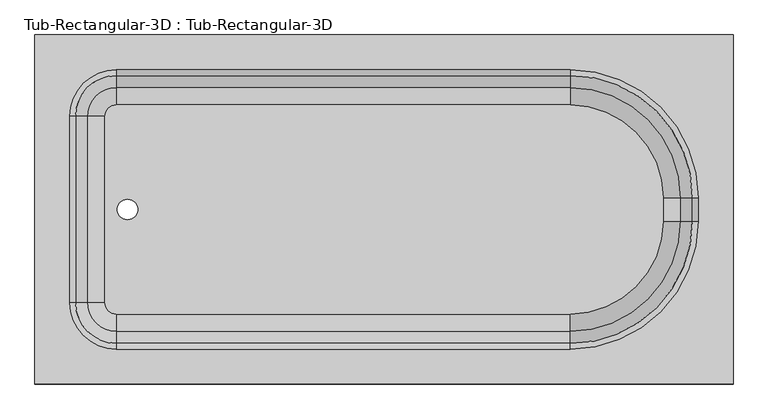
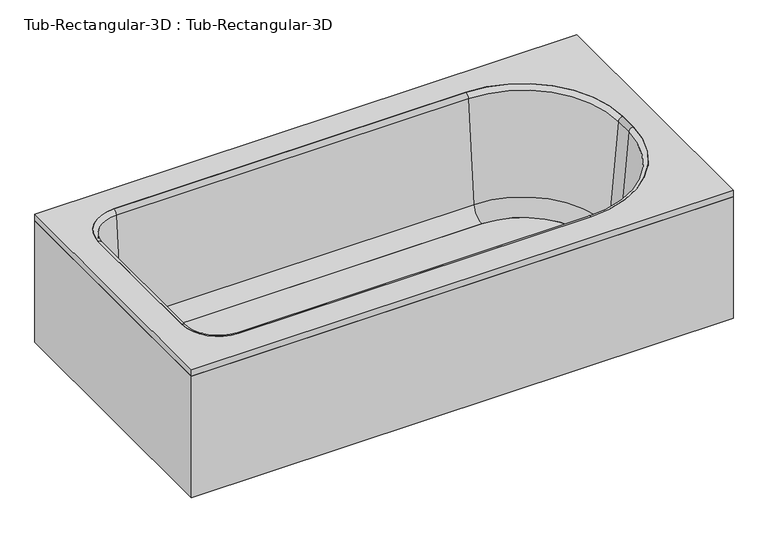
"""IFC4 building model written with IfcOpenShell, lengths in millimetres: flow terminal geometry, Tub-Rectangular-3D : Tub-Rectangular-3D."""

from ifc_helpers import new_model, si_unit, point, frame, frame_2d, origin, origin_with_axes, place, context, project, spatial, polyline, circle_curve, ellipse_curve, trimmed, segment, composite_curve, outline, extrude, source, transform, mapped, element, save
from ifc_brep_helpers import plane_surface, cylinder_surface, revolved_surface, advanced_brep


def tub_rectangular_3d_tub_rectangular_3d_5e45a89b(model_context):
    return source(origin(), model_context, "Body", "SolidModel", [
        extrude(outline(polyline([(413.3970313, -938.2125), (-1110.6029687, -938.2125), (-1110.6029687, -176.2125), (413.3970313, -176.2125), (413.3970313, -938.2125)]), holes=[composite_curve([segment(polyline([(-932.8029687, -862.0125), (57.7970313, -862.0125)]), True, "CONTINUOUS"), segment(trimmed(circle_curve(frame_2d((57.7970313, -582.6125)), 279.4), [point((57.7970313, -862.0125))], [point((337.1970313, -582.6125))], True, "CARTESIAN"), True, "CONTINUOUS"), segment(polyline([(337.1970313, -582.6125), (337.1970313, -531.8125)]), True, "CONTINUOUS"), segment(trimmed(circle_curve(frame_2d((57.7970313, -531.8125)), 279.4), [point((337.1970313, -531.8125))], [point((57.7970313, -252.4125))], True, "CARTESIAN"), True, "CONTINUOUS"), segment(polyline([(57.7970313, -252.4125), (-932.8029687, -252.4125)]), True, "CONTINUOUS"), segment(trimmed(circle_curve(frame_2d((-932.8029687, -354.0125)), 101.6), [point((-932.8029687, -252.4125))], [point((-1034.4029687, -354.0125))], True, "CARTESIAN"), True, "CONTINUOUS"), segment(polyline([(-1034.4029687, -354.0125), (-1034.4029687, -760.4125)]), True, "CONTINUOUS"), segment(trimmed(circle_curve(frame_2d((-932.8029687, -760.4125)), 101.6), [point((-1034.4029687, -760.4125))], [point((-932.8029687, -862.0125))], True, "CARTESIAN"), True, "CONTINUOUS")], self_intersect=False)]), frame((0.0, 0.0, 361.95), z_axis=(0.0, 0.0, 1.0), x_axis=(1.0, 0.0, 0.0)), (0.0, 0.0, 1.0), 19.05),
        extrude(outline(polyline([(413.3970313, -938.2125), (-1110.6029687, -938.2125), (-1110.6029687, -176.2125), (413.3970313, -176.2125), (413.3970313, -938.2125)]), holes=[polyline([(394.3470313, -919.1625), (394.3470313, -195.2625), (-1091.5529687, -195.2625), (-1091.5529687, -919.1625), (394.3470313, -919.1625)])]), origin_with_axes(), (0.0, 0.0, 1.0), 361.95),
        extrude(outline(composite_curve([segment(polyline([(57.7970313, -785.4089741), (-932.8029687, -785.4089741)]), True, "CONTINUOUS"), segment(trimmed(circle_curve(frame_2d((-932.8029687, -760.4125)), 24.9964741), [point((-932.8029687, -785.4089741))], [point((-957.7994428, -760.4125))], False, "CARTESIAN"), True, "CONTINUOUS"), segment(polyline([(-957.7994428, -760.4125), (-957.7994428, -354.0125)]), True, "CONTINUOUS"), segment(trimmed(circle_curve(frame_2d((-932.8029687, -354.0125)), 24.9964741), [point((-957.7994428, -354.0125))], [point((-932.8029687, -329.0160259))], False, "CARTESIAN"), True, "CONTINUOUS"), segment(polyline([(-932.8029687, -329.0160259), (57.7970313, -329.0160259)]), True, "CONTINUOUS"), segment(trimmed(circle_curve(frame_2d((57.7970313, -531.8125)), 202.7964741), [point((57.7970313, -329.0160259))], [point((260.5935054, -531.8125))], False, "CARTESIAN"), True, "CONTINUOUS"), segment(polyline([(260.5935054, -531.8125), (260.5935054, -582.6125)]), True, "CONTINUOUS"), segment(trimmed(circle_curve(frame_2d((57.7970313, -582.6125)), 202.7964741), [point((260.5935054, -582.6125))], [point((57.7970313, -785.4089741))], False, "CARTESIAN"), True, "CONTINUOUS")], self_intersect=False), holes=[composite_curve([segment(trimmed(circle_curve(frame_2d((-908.510206, -557.2125)), 22.225), [point((-908.510206, -579.4375))], [point((-908.510206, -534.9875))], True, "CARTESIAN"), True, "CONTINUOUS"), segment(trimmed(circle_curve(frame_2d((-908.510206, -557.2125)), 22.225), [point((-908.510206, -534.9875))], [point((-908.510206, -579.4375))], True, "CARTESIAN"), True, "CONTINUOUS")], self_intersect=False)]), frame((0.0, 0.0, 16.863573), z_axis=(0.0, 0.0, 1.0), x_axis=(1.0, 0.0, 0.0)), (0.0, 0.0, 1.0), 19.05),
        advanced_brep(
        [(-995.7544608, -760.4125, 70.6929392), (-1021.9249722, -760.4125, 369.8232535), (-932.8029687, -849.5345035, 369.8232535), (-932.8029687, -823.3639921, 70.6929392), (-957.7994428, -760.4125, 35.913573), (-932.8029687, -785.4089741, 35.913573), (-957.7994428, -760.4125, 16.863573), (-932.8029687, -785.4089741, 16.863573), (-1034.4029687, -760.4125, 16.863573), (-932.8029687, -862.0125, 16.863573), (-1034.4029687, -760.4125, 381.0), (-932.8029687, -862.0125, 381.0), (-995.7544608, -354.0125, 70.6929392), (-1021.9249722, -354.0125, 369.8232535), (-957.7994428, -354.0125, 35.913573), (-957.7994428, -354.0125, 16.863573), (-1034.4029687, -354.0125, 16.863573), (-1034.4029687, -354.0125, 381.0), (-932.8029687, -291.0610079, 70.6929392), (-932.8029687, -264.8904965, 369.8232535), (-932.8029687, -329.0160259, 35.913573), (-932.8029687, -329.0160259, 16.863573), (-932.8029687, -252.4125, 16.863573), (-932.8029687, -252.4125, 381.0), (57.7970313, -291.0610079, 70.6929392), (57.7970313, -264.8904965, 369.8232535), (57.7970313, -329.0160259, 35.913573), (57.7970313, -329.0160259, 16.863573), (57.7970313, -252.4125, 16.863573), (57.7970313, -252.4125, 381.0), (298.5485234, -531.8125, 70.6929392), (324.7190348, -531.8125, 369.8232535), (260.5935054, -531.8125, 35.913573), (260.5935054, -531.8125, 16.863573), (337.1970313, -531.8125, 16.863573), (337.1970313, -531.8125, 381.0), (298.5485234, -582.6125, 70.6929392), (324.7190348, -582.6125, 369.8232535), (260.5935054, -582.6125, 35.913573), (260.5935054, -582.6125, 16.863573), (337.1970313, -582.6125, 16.863573), (337.1970313, -582.6125, 381.0), (57.7970313, -823.3639921, 70.6929392), (57.7970313, -849.5345035, 369.8232535), (57.7970313, -785.4089741, 35.913573), (57.7970313, -785.4089741, 16.863573), (57.7970313, -862.0125, 16.863573), (57.7970313, -862.0125, 381.0)],
        [
            (0, 1),
            (1, 2, circle_curve(frame((-932.8029687, -760.4125, 369.8232535), z_axis=(0.0, 0.0, 1.0), x_axis=(0.0, -1.0, 0.0)), 89.1220035)),
            (2, 3),
            (3, 0, circle_curve(frame((-932.8029687, -760.4125, 70.6929392), z_axis=(0.0, 0.0, -1.0), x_axis=(0.0, -1.0, 0.0)), 62.9514921)),
            (4, 0, circle_curve(frame((-957.7994428, -760.4125, 74.013573), z_axis=(0.0, 1.0, 0.0), x_axis=(1.0, 0.0, 0.0)), 38.1)),
            (3, 5, circle_curve(frame((-932.8029687, -785.4089741, 74.013573), z_axis=(1.0, 0.0, 0.0), x_axis=(0.0, 1.0, 0.0)), 38.1)),
            (5, 4, circle_curve(frame((-932.8029687, -760.4125, 35.913573), z_axis=(0.0, 0.0, -1.0), x_axis=(0.0, -1.0, 0.0)), 24.9964741)),
            (6, 4),
            (5, 7),
            (7, 6, circle_curve(frame((-932.8029687, -760.4125, 16.863573), z_axis=(0.0, 0.0, -1.0), x_axis=(0.0, -1.0, 0.0)), 24.9964741)),
            (8, 6),
            (7, 9),
            (9, 8, circle_curve(frame((-932.8029687, -760.4125, 16.863573), z_axis=(0.0, 0.0, -1.0), x_axis=(0.0, -1.0, 0.0)), 101.6)),
            (10, 8),
            (9, 11),
            (11, 10, circle_curve(frame((-932.8029687, -760.4125, 381.0), z_axis=(0.0, 0.0, -1.0), x_axis=(0.0, -1.0, 0.0)), 101.6)),
            (1, 10, circle_curve(frame((-1034.4029687, -760.4125, 368.4462547), z_axis=(0.0, -1.0, 0.0), x_axis=(1.0, 0.0, 0.0)), 12.5537453)),
            (11, 2, circle_curve(frame((-932.8029687, -862.0125, 368.4462547), z_axis=(-1.0, 0.0, 0.0), x_axis=(0.0, 1.0, 0.0)), 12.5537453)),
            (0, 12),
            (12, 13),
            (13, 1),
            (4, 14),
            (14, 12, circle_curve(frame((-957.7994428, -354.0125, 74.013573), z_axis=(0.0, 1.0, 0.0), x_axis=(1.0, 0.0, 0.0)), 38.1)),
            (6, 15),
            (15, 14),
            (8, 16),
            (16, 15),
            (10, 17),
            (17, 16),
            (13, 17, circle_curve(frame((-1034.4029687, -354.0125, 368.4462547), z_axis=(0.0, -1.0, 0.0), x_axis=(1.0, 0.0, 0.0)), 12.5537453)),
            (18, 19),
            (19, 13, circle_curve(frame((-932.8029687, -354.0125, 369.8232535), z_axis=(0.0, 0.0, 1.0), x_axis=(-1.0, 0.0, 0.0)), 89.1220035)),
            (12, 18, circle_curve(frame((-932.8029687, -354.0125, 70.6929392), z_axis=(0.0, 0.0, -1.0), x_axis=(-1.0, 0.0, 0.0)), 62.9514921)),
            (20, 18, circle_curve(frame((-932.8029687, -329.0160259, 74.013573), z_axis=(1.0, 0.0, 0.0), x_axis=(0.0, -1.0, 0.0)), 38.1)),
            (14, 20, circle_curve(frame((-932.8029687, -354.0125, 35.913573), z_axis=(0.0, 0.0, -1.0), x_axis=(-1.0, 0.0, 0.0)), 24.9964741)),
            (21, 20),
            (15, 21, circle_curve(frame((-932.8029687, -354.0125, 16.863573), z_axis=(0.0, 0.0, -1.0), x_axis=(-1.0, 0.0, 0.0)), 24.9964741)),
            (22, 21),
            (16, 22, circle_curve(frame((-932.8029687, -354.0125, 16.863573), z_axis=(0.0, 0.0, -1.0), x_axis=(-1.0, 0.0, 0.0)), 101.6)),
            (23, 22),
            (17, 23, circle_curve(frame((-932.8029687, -354.0125, 381.0), z_axis=(0.0, 0.0, -1.0), x_axis=(-1.0, 0.0, 0.0)), 101.6)),
            (19, 23, circle_curve(frame((-932.8029687, -252.4125, 368.4462547), z_axis=(-1.0, 0.0, 0.0), x_axis=(0.0, -1.0, 0.0)), 12.5537453)),
            (18, 24),
            (24, 25),
            (25, 19),
            (20, 26),
            (26, 24, circle_curve(frame((57.7970313, -329.0160259, 74.013573), z_axis=(1.0, 0.0, 0.0), x_axis=(0.0, -1.0, 0.0)), 38.1)),
            (21, 27),
            (27, 26),
            (22, 28),
            (28, 27),
            (23, 29),
            (29, 28),
            (25, 29, circle_curve(frame((57.7970313, -252.4125, 368.4462547), z_axis=(-1.0, 0.0, 0.0), x_axis=(0.0, -1.0, 0.0)), 12.5537453)),
            (30, 31),
            (31, 25, circle_curve(frame((57.7970313, -531.8125, 369.8232535), z_axis=(0.0, 0.0, 1.0), x_axis=(0.0, 1.0, 0.0)), 266.9220035)),
            (24, 30, circle_curve(frame((57.7970313, -531.8125, 70.6929392), z_axis=(0.0, 0.0, -1.0), x_axis=(0.0, 1.0, 0.0)), 240.7514921)),
            (32, 30, circle_curve(frame((260.5935054, -531.8125, 74.013573), z_axis=(0.0, -1.0, 0.0), x_axis=(-1.0, 0.0, 0.0)), 38.1)),
            (26, 32, circle_curve(frame((57.7970313, -531.8125, 35.913573), z_axis=(0.0, 0.0, -1.0), x_axis=(0.0, 1.0, 0.0)), 202.7964741)),
            (33, 32),
            (27, 33, circle_curve(frame((57.7970313, -531.8125, 16.863573), z_axis=(0.0, 0.0, -1.0), x_axis=(0.0, 1.0, 0.0)), 202.7964741)),
            (34, 33),
            (28, 34, circle_curve(frame((57.7970313, -531.8125, 16.863573), z_axis=(0.0, 0.0, -1.0), x_axis=(0.0, 1.0, 0.0)), 279.4)),
            (35, 34),
            (29, 35, circle_curve(frame((57.7970313, -531.8125, 381.0), z_axis=(0.0, 0.0, -1.0), x_axis=(0.0, 1.0, 0.0)), 279.4)),
            (31, 35, circle_curve(frame((337.1970313, -531.8125, 368.4462547), z_axis=(0.0, 1.0, 0.0), x_axis=(-1.0, 0.0, 0.0)), 12.5537453)),
            (30, 36),
            (36, 37),
            (37, 31),
            (32, 38),
            (38, 36, circle_curve(frame((260.5935054, -582.6125, 74.013573), z_axis=(0.0, -1.0, 0.0), x_axis=(-1.0, 0.0, 0.0)), 38.1)),
            (33, 39),
            (39, 38),
            (34, 40),
            (40, 39),
            (35, 41),
            (41, 40),
            (37, 41, circle_curve(frame((337.1970313, -582.6125, 368.4462547), z_axis=(0.0, 1.0, 0.0), x_axis=(-1.0, 0.0, 0.0)), 12.5537453)),
            (42, 43),
            (43, 37, circle_curve(frame((57.7970313, -582.6125, 369.8232535), z_axis=(0.0, 0.0, 1.0), x_axis=(1.0, 0.0, 0.0)), 266.9220035)),
            (36, 42, circle_curve(frame((57.7970313, -582.6125, 70.6929392), z_axis=(0.0, 0.0, -1.0), x_axis=(1.0, 0.0, 0.0)), 240.7514921)),
            (44, 42, circle_curve(frame((57.7970313, -785.4089741, 74.013573), z_axis=(-1.0, 0.0, 0.0), x_axis=(0.0, 1.0, 0.0)), 38.1)),
            (38, 44, circle_curve(frame((57.7970313, -582.6125, 35.913573), z_axis=(0.0, 0.0, -1.0), x_axis=(1.0, 0.0, 0.0)), 202.7964741)),
            (45, 44),
            (39, 45, circle_curve(frame((57.7970313, -582.6125, 16.863573), z_axis=(0.0, 0.0, -1.0), x_axis=(1.0, 0.0, 0.0)), 202.7964741)),
            (46, 45),
            (40, 46, circle_curve(frame((57.7970313, -582.6125, 16.863573), z_axis=(0.0, 0.0, -1.0), x_axis=(1.0, 0.0, 0.0)), 279.4)),
            (47, 46),
            (41, 47, circle_curve(frame((57.7970313, -582.6125, 381.0), z_axis=(0.0, 0.0, -1.0), x_axis=(1.0, 0.0, 0.0)), 279.4)),
            (43, 47, circle_curve(frame((57.7970313, -862.0125, 368.4462547), z_axis=(1.0, 0.0, 0.0), x_axis=(0.0, 1.0, 0.0)), 12.5537453)),
            (42, 3),
            (2, 43),
            (44, 5),
            (45, 7),
            (46, 9),
            (47, 11),
        ],
        [
            revolved_surface(polyline([(-932.8029687, -849.5345035, 369.8232535), (-932.8029687, -823.3639921, 70.6929392)]), (-932.8029687, -760.4125, 381.0), (0.0, 0.0, 1.0)),
            revolved_surface(trimmed(ellipse_curve(frame((-932.8029687, -785.4089741, 74.013573), z_axis=(1.0, 0.0, 0.0), x_axis=(0.0, 1.0, 0.0)), 38.1, 38.1), [point((-932.8029687, -823.3639921, 70.6929392))], [point((-932.8029687, -785.4089741, 35.913573))], True, "CARTESIAN"), (-932.8029687, -760.4125, 381.0), (0.0, 0.0, 1.0)),
            revolved_surface(polyline([(-932.8029687, -785.4089741, 35.913572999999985), (-932.8029687, -785.4089741, 16.863572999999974)]), (-932.8029687, -760.4125, 381.0), (0.0, 0.0, 1.0)),
            plane_surface(frame((-932.8029687, -760.4125, 16.863573), z_axis=(0.0, 0.0, -1.0), x_axis=(0.0, -1.0, 0.0))),
            cylinder_surface(frame((-932.8029687, -760.4125, 381.0), z_axis=(0.0, 0.0, 1.0), x_axis=(0.0, -1.0, 0.0)), 101.6),
            revolved_surface(trimmed(ellipse_curve(frame((-932.8029687, -862.0125, 368.4462547), z_axis=(-1.0, 0.0, 0.0), x_axis=(0.0, 1.0, 0.0)), 12.5537453, 12.5537453), [point((-932.8029687, -862.0125, 381.0))], [point((-932.8029687, -849.5345035, 369.8232535))], True, "CARTESIAN"), (-932.8029687, -760.4125, 381.0), (0.0, 0.0, 1.0)),
            plane_surface(frame((-1021.9249722, -760.4125, 369.8232535), z_axis=(0.9961946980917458, 0.0, 0.08715574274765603), x_axis=(0.0, 1.0, 0.0))),
            revolved_surface(polyline([(-919.6994427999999, -354.0125, 74.013573), (-919.6994427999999, -760.4125, 74.013573)]), (-957.7994428, -760.4125, 74.013573), (0.0, 1.0, 0.0)),
            plane_surface(frame((-957.7994428, -760.4125, 35.913573), z_axis=(1.0, 0.0, 0.0), x_axis=(0.0, 1.0, 0.0))),
            plane_surface(frame((-957.7994428, -760.4125, 16.863573), z_axis=(0.0, 0.0, -1.0), x_axis=(0.0, 1.0, 0.0))),
            plane_surface(frame((-1034.4029687, -760.4125, 16.863573), z_axis=(-1.0, 0.0, 0.0), x_axis=(0.0, 1.0, 0.0))),
            cylinder_surface(frame((-1034.4029687, -760.4125, 368.4462547), z_axis=(0.0, -1.0, 0.0), x_axis=(1.0, 0.0, 0.0)), 12.5537453),
            revolved_surface(polyline([(-1021.9249722, -354.0125, 369.8232535), (-995.7544608, -354.0125, 70.6929392)]), (-932.8029687, -354.0125, 381.0), (0.0, 0.0, 1.0)),
            revolved_surface(trimmed(ellipse_curve(frame((-957.7994428, -354.0125, 74.013573), z_axis=(0.0, -1.0, 0.0), x_axis=(1.0, 0.0, 0.0)), 38.1, 38.1), [point((-995.7544608, -354.0125, 70.6929392))], [point((-957.7994428, -354.0125, 35.913573))], True, "CARTESIAN"), (-932.8029687, -354.0125, 381.0), (0.0, 0.0, 1.0)),
            revolved_surface(polyline([(-957.7994428, -354.0125, 35.913572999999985), (-957.7994428, -354.0125, 16.863572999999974)]), (-932.8029687, -354.0125, 381.0), (0.0, 0.0, 1.0)),
            plane_surface(frame((-932.8029687, -354.0125, 16.863573), z_axis=(0.0, 0.0, -1.0), x_axis=(-1.0, 0.0, 0.0))),
            cylinder_surface(frame((-932.8029687, -354.0125, 381.0), z_axis=(0.0, 0.0, 1.0), x_axis=(-1.0, 0.0, 0.0)), 101.6),
            revolved_surface(trimmed(ellipse_curve(frame((-1034.4029687, -354.0125, 368.4462547), z_axis=(0.0, 1.0, 0.0), x_axis=(1.0, 0.0, 0.0)), 12.5537453, 12.5537453), [point((-1034.4029687, -354.0125, 381.0))], [point((-1021.9249722, -354.0125, 369.8232535))], True, "CARTESIAN"), (-932.8029687, -354.0125, 381.0), (0.0, 0.0, 1.0)),
            plane_surface(frame((-932.8029687, -264.8904965, 369.8232535), z_axis=(0.0, -0.9961946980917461, 0.0871557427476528), x_axis=(1.0, 0.0, 0.0))),
            revolved_surface(polyline([(57.79703129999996, -367.1160259, 74.013573), (-932.8029687, -367.1160259, 74.013573)]), (-932.8029687, -329.0160259, 74.013573), (1.0, 0.0, 0.0)),
            plane_surface(frame((-932.8029687, -329.0160259, 35.913573), z_axis=(0.0, -1.0, 0.0), x_axis=(1.0, 0.0, 0.0))),
            plane_surface(frame((-932.8029687, -329.0160259, 16.863573), z_axis=(0.0, 0.0, -1.0), x_axis=(1.0, 0.0, 0.0))),
            plane_surface(frame((-932.8029687, -252.4125, 16.863573), z_axis=(0.0, 1.0, 0.0), x_axis=(1.0, 0.0, 0.0))),
            cylinder_surface(frame((-932.8029687, -252.4125, 368.4462547), z_axis=(-1.0, 0.0, 0.0), x_axis=(0.0, -1.0, 0.0)), 12.5537453),
            revolved_surface(polyline([(57.7970313, -264.8904965, 369.8232535), (57.7970313, -291.0610079, 70.6929392)]), (57.7970313, -531.8125, 381.0), (0.0, 0.0, 1.0)),
            revolved_surface(trimmed(ellipse_curve(frame((57.7970313, -329.0160259, 74.013573), z_axis=(-1.0, 0.0, 0.0), x_axis=(0.0, -1.0, 0.0)), 38.1, 38.1), [point((57.7970313, -291.0610079, 70.6929392))], [point((57.7970313, -329.0160259, 35.913573))], True, "CARTESIAN"), (57.7970313, -531.8125, 381.0), (0.0, 0.0, 1.0)),
            revolved_surface(polyline([(57.7970313, -329.0160259, 35.913572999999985), (57.7970313, -329.0160259, 16.863572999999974)]), (57.7970313, -531.8125, 381.0), (0.0, 0.0, 1.0)),
            plane_surface(frame((57.7970313, -531.8125, 16.863573), z_axis=(0.0, 0.0, -1.0), x_axis=(0.0, 1.0, 0.0))),
            cylinder_surface(frame((57.7970313, -531.8125, 381.0), z_axis=(0.0, 0.0, 1.0), x_axis=(0.0, 1.0, 0.0)), 279.4),
            revolved_surface(trimmed(ellipse_curve(frame((57.7970313, -252.4125, 368.4462547), z_axis=(1.0, 0.0, 0.0), x_axis=(0.0, -1.0, 0.0)), 12.5537453, 12.5537453), [point((57.7970313, -252.4125, 381.0))], [point((57.7970313, -264.8904965, 369.8232535))], True, "CARTESIAN"), (57.7970313, -531.8125, 381.0), (0.0, 0.0, 1.0)),
            plane_surface(frame((324.7190348, -531.8125, 369.8232535), z_axis=(-0.9961946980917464, 0.0, 0.08715574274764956), x_axis=(0.0, -1.0, 0.0))),
            revolved_surface(polyline([(222.49350540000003, -582.6125, 74.013573), (222.49350540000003, -531.8125, 74.013573)]), (260.5935054, -531.8125, 74.013573), (0.0, -1.0, 0.0)),
            plane_surface(frame((260.5935054, -531.8125, 35.913573), z_axis=(-1.0, 0.0, 0.0), x_axis=(0.0, -1.0, 0.0))),
            plane_surface(frame((260.5935054, -531.8125, 16.863573), z_axis=(0.0, 0.0, -1.0), x_axis=(0.0, -1.0, 0.0))),
            plane_surface(frame((337.1970313, -531.8125, 16.863573), z_axis=(1.0, 0.0, 0.0), x_axis=(0.0, -1.0, 0.0))),
            cylinder_surface(frame((337.1970313, -531.8125, 368.4462547), z_axis=(0.0, 1.0, 0.0), x_axis=(-1.0, 0.0, 0.0)), 12.5537453),
            revolved_surface(polyline([(324.7190348, -582.6125, 369.8232535), (298.5485234, -582.6125, 70.6929392)]), (57.7970313, -582.6125, 381.0), (0.0, 0.0, 1.0)),
            revolved_surface(trimmed(ellipse_curve(frame((260.5935054, -582.6125, 74.013573), z_axis=(0.0, 1.0, 0.0), x_axis=(-1.0, 0.0, 0.0)), 38.1, 38.1), [point((298.5485234, -582.6125, 70.6929392))], [point((260.5935054, -582.6125, 35.913573))], True, "CARTESIAN"), (57.7970313, -582.6125, 381.0), (0.0, 0.0, 1.0)),
            revolved_surface(polyline([(260.5935054, -582.6125, 35.913572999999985), (260.5935054, -582.6125, 16.863572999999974)]), (57.7970313, -582.6125, 381.0), (0.0, 0.0, 1.0)),
            plane_surface(frame((57.7970313, -582.6125, 16.863573), z_axis=(0.0, 0.0, -1.0), x_axis=(1.0, 0.0, 0.0))),
            cylinder_surface(frame((57.7970313, -582.6125, 381.0), z_axis=(0.0, 0.0, 1.0), x_axis=(1.0, 0.0, 0.0)), 279.4),
            revolved_surface(trimmed(ellipse_curve(frame((337.1970313, -582.6125, 368.4462547), z_axis=(0.0, -1.0, 0.0), x_axis=(-1.0, 0.0, 0.0)), 12.5537453, 12.5537453), [point((337.1970313, -582.6125, 381.0))], [point((324.7190348, -582.6125, 369.8232535))], True, "CARTESIAN"), (57.7970313, -582.6125, 381.0), (0.0, 0.0, 1.0)),
            plane_surface(frame((57.7970313, -849.5345035, 369.8232535), z_axis=(0.0, 0.9961946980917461, 0.0871557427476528), x_axis=(-1.0, 0.0, 0.0))),
            revolved_surface(polyline([(-932.8029687, -747.3089741, 74.013573), (57.7970313, -747.3089741, 74.013573)]), (57.7970313, -785.4089741, 74.013573), (-1.0, 0.0, 0.0)),
            plane_surface(frame((57.7970313, -785.4089741, 35.913573), z_axis=(0.0, 1.0, 0.0), x_axis=(-1.0, 0.0, 0.0))),
            plane_surface(frame((57.7970313, -785.4089741, 16.863573), z_axis=(0.0, 0.0, -1.0), x_axis=(-1.0, 0.0, 0.0))),
            plane_surface(frame((57.7970313, -862.0125, 16.863573), z_axis=(0.0, -1.0, 0.0), x_axis=(-1.0, 0.0, 0.0))),
            cylinder_surface(frame((57.7970313, -862.0125, 368.4462547), z_axis=(1.0, 0.0, 0.0), x_axis=(0.0, 1.0, 0.0)), 12.5537453),
        ],
        [
            (0, [[1, 2, 3, 4]]),
            (1, [[5, -4, 6, 7]]),
            (2, [[8, -7, 9, 10]]),
            (3, [[11, -10, 12, 13]]),
            (4, [[14, -13, 15, 16]]),
            (5, [[17, -16, 18, -2]]),
            (6, [[19, 20, 21, -1]]),
            (7, [[22, 23, -19, -5]]),
            (8, [[24, 25, -22, -8]]),
            (9, [[26, 27, -24, -11]]),
            (10, [[28, 29, -26, -14]]),
            (11, [[-21, 30, -28, -17]]),
            (12, [[31, 32, -20, 33]]),
            (13, [[34, -33, -23, 35]]),
            (14, [[36, -35, -25, 37]]),
            (15, [[38, -37, -27, 39]]),
            (16, [[40, -39, -29, 41]]),
            (17, [[42, -41, -30, -32]]),
            (18, [[43, 44, 45, -31]]),
            (19, [[46, 47, -43, -34]]),
            (20, [[48, 49, -46, -36]]),
            (21, [[50, 51, -48, -38]]),
            (22, [[52, 53, -50, -40]]),
            (23, [[-45, 54, -52, -42]]),
            (24, [[55, 56, -44, 57]]),
            (25, [[58, -57, -47, 59]]),
            (26, [[60, -59, -49, 61]]),
            (27, [[62, -61, -51, 63]]),
            (28, [[64, -63, -53, 65]]),
            (29, [[66, -65, -54, -56]]),
            (30, [[67, 68, 69, -55]]),
            (31, [[70, 71, -67, -58]]),
            (32, [[72, 73, -70, -60]]),
            (33, [[74, 75, -72, -62]]),
            (34, [[76, 77, -74, -64]]),
            (35, [[-69, 78, -76, -66]]),
            (36, [[79, 80, -68, 81]]),
            (37, [[82, -81, -71, 83]]),
            (38, [[84, -83, -73, 85]]),
            (39, [[86, -85, -75, 87]]),
            (40, [[88, -87, -77, 89]]),
            (41, [[90, -89, -78, -80]]),
            (42, [[91, -3, 92, -79]]),
            (43, [[93, -6, -91, -82]]),
            (44, [[94, -9, -93, -84]]),
            (45, [[95, -12, -94, -86]]),
            (46, [[96, -15, -95, -88]]),
            (47, [[-92, -18, -96, -90]]),
        ],
    ),
    ])


if __name__ == "__main__":
    model = new_model("IFC4")
    model_context = context("Model", 3, world=origin())
    ifc_project = project(units=[si_unit("LENGTHUNIT", "METRE", prefix="MILLI")], contexts=[model_context])
    site = spatial("IfcSite", under=ifc_project)
    building = spatial("IfcBuilding", under=site)
    placement = place(None, origin())
    tub_rectangular_3d_tub_rectangular_3d_shape = tub_rectangular_3d_tub_rectangular_3d_5e45a89b(model_context)
    element("IfcFlowTerminal", 1, ObjectType="Tub-Rectangular-3D : Tub-Rectangular-3D", at=placement, inside=building, context=model_context, shape_type="MappedRepresentation", body=[
        mapped(tub_rectangular_3d_tub_rectangular_3d_shape, transform((0.0, 0.0, 0.0), x_axis=(1.0, 0.0, 0.0), y_axis=(0.0, 1.0, 0.0), z_axis=(0.0, 0.0, 1.0))),
    ])
    save(model, "model.ifc")
